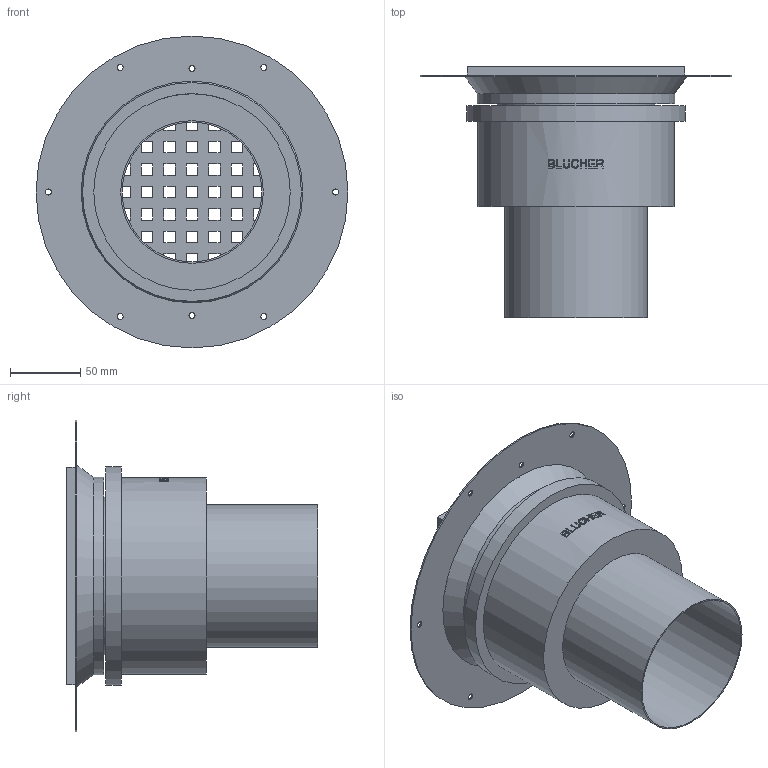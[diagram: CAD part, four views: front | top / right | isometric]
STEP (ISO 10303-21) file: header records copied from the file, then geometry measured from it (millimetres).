
FILE_DESCRIPTION((''),'2;1');
FILE_NAME('C:\Drawings\3D_CAD_Models\Blucher\Showers\BSS_Shower Drains with Square Top_Complete_091110\WebsiteFiles\3D\STEP\BSS-304.stp','2009-11-20T15:26:06',('hofmansp'),(''),'Autodesk Inventor 2010','Autodesk Inventor 2010','');
FILE_SCHEMA(('AUTOMOTIVE_DESIGN { 1 0 10303 214 1 1 1 1 }'));
Length unit declared in the file: inch
Products named in the file (1): BSS-304
Bounding box: 222.25 x 179.12 x 222.25 mm (x, y, z)
Volume: 321971.8 mm3; surface area: 308268.6 mm2
Topology: 1 solids, 1 shells, 353 faces, 1056 edges, 688 vertices
Faces by surface type: plane 285, bspline 42, cylinder 24, cone 2
Full cylindrical faces by diameter (mm): 99.6 x1, 101.6 x1, 109.5 x1, 111 x1, 111.5 x1, 113 x2, 138 x1, 138.6 x1, 140 x1, 140.6 x1, 155.575 x1, 156 x1, 222.25 x1
Entity records: 22771 total; most frequent: CARTESIAN_POINT 13060, ORIENTED_EDGE 2036, DIRECTION 1662, EDGE_CURVE 1018, VECTOR 772, LINE 772, VERTEX_POINT 674, EDGE_LOOP 498
